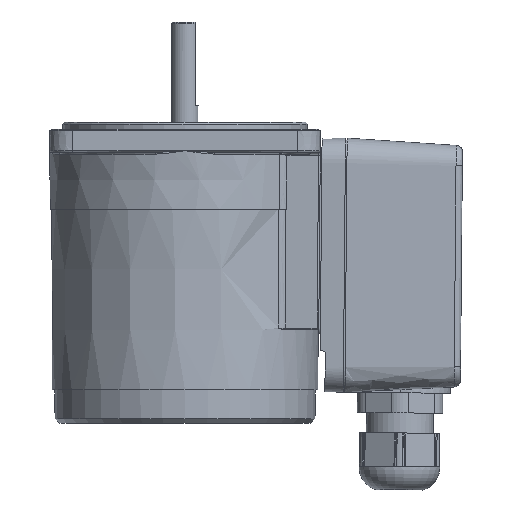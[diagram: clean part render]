
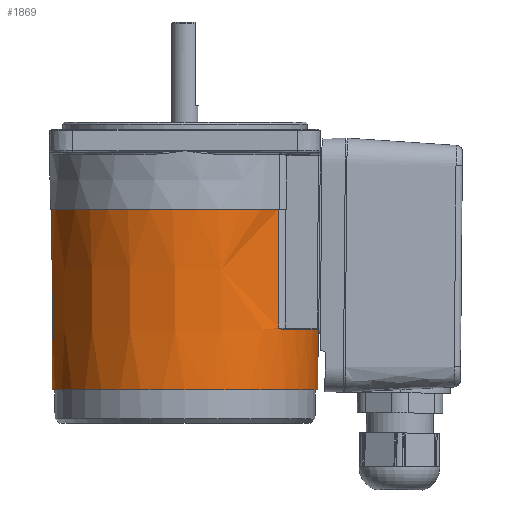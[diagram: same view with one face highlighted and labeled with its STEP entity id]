
A CAD part, left-side view. The second image highlights one B-rep face of the part: STEP entity #1869.
In plain terms, the highlighted conical face has half-angle 0.318 degrees and reference radius 40.05 mm.
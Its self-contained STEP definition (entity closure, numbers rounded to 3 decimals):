
#133 = CARTESIAN_POINT ( 'NONE',  ( 28.384, -27.989, -57.168 ) ) ;
#188 = DIRECTION ( 'NONE',  ( -1., 0., 0. ) ) ;
#243 = AXIS2_PLACEMENT_3D ( 'NONE', #9680, #4016, #11594 ) ;
#251 = CARTESIAN_POINT ( 'NONE',  ( 28.549, -27.977, -37.5 ) ) ;
#308 = CARTESIAN_POINT ( 'NONE',  ( 0., 0., -59.5 ) ) ;
#342 = CARTESIAN_POINT ( 'NONE',  ( 0., 0., -77.5 ) ) ;
#454 = B_SPLINE_CURVE_WITH_KNOTS ( 'NONE', 3,
 ( #8465, #1908, #12221, #4660, #5721, #2679, #9389, #794 ),
 .UNSPECIFIED., .F., .F.,
 ( 4, 2, 2, 4 ),
 ( 0., 0.001, 0.001, 0.002 ),
 .UNSPECIFIED. ) ;
#691 = CIRCLE ( 'NONE', #3878, 40.05 ) ;
#738 = CARTESIAN_POINT ( 'NONE',  ( 3.591, -39.698, -59.458 ) ) ;
#766 = CARTESIAN_POINT ( 'NONE',  ( -39.75, 0., -77.5 ) ) ;
#791 = CARTESIAN_POINT ( 'NONE',  ( -28.369, -27.99, -59.003 ) ) ;
#794 = CARTESIAN_POINT ( 'NONE',  ( 27.122, -29.196, -59.5 ) ) ;
#855 = VERTEX_POINT ( 'NONE', #5679 ) ;
#1118 = DIRECTION ( 'NONE',  ( 0., 0., -1. ) ) ;
#1282 = ORIENTED_EDGE ( 'NONE', *, *, #5523, .T. ) ;
#1532 = CARTESIAN_POINT ( 'NONE',  ( 0., 0., -59.5 ) ) ;
#1544 = CARTESIAN_POINT ( 'NONE',  ( -28.415, -27.987, -53.5 ) ) ;
#1733 = CARTESIAN_POINT ( 'NONE',  ( -28.616, -27.972, -29.501 ) ) ;
#1752 = EDGE_LOOP ( 'NONE', ( #4746, #6105, #7205, #11717, #2665, #1282, #10028, #5434 ) ) ;
#1869 = ADVANCED_FACE ( 'NONE', ( #6821, #10604 ), #5414, .T. ) ;
#1908 = CARTESIAN_POINT ( 'NONE',  ( 28.173, -28.188, -59.121 ) ) ;
#2053 = CARTESIAN_POINT ( 'NONE',  ( 0., 0., -23.5 ) ) ;
#2092 = VERTEX_POINT ( 'NONE', #2420 ) ;
#2120 = CARTESIAN_POINT ( 'NONE',  ( 28.415, -27.987, -53.499 ) ) ;
#2292 = DIRECTION ( 'NONE',  ( 0., 0., -1. ) ) ;
#2342 = EDGE_CURVE ( 'NONE', #10077, #2092, #7204, .T. ) ;
#2420 = CARTESIAN_POINT ( 'NONE',  ( 5.38, -39.485, -59.5 ) ) ;
#2459 = CARTESIAN_POINT ( 'NONE',  ( -27.663, -28.685, -59.381 ) ) ;
#2497 = CARTESIAN_POINT ( 'NONE',  ( -28.482, -27.982, -45.5 ) ) ;
#2534 = B_SPLINE_CURVE_WITH_KNOTS ( 'NONE', 3,
 ( #12218, #6417, #738, #11362, #5479, #4539, #10200, #12161, #8342, #5586 ),
 .UNSPECIFIED., .F., .F.,
 ( 4, 2, 2, 2, 4 ),
 ( 0., 0.003, 0.005, 0.008, 0.011 ),
 .UNSPECIFIED. ) ;
#2665 = ORIENTED_EDGE ( 'NONE', *, *, #6354, .T. ) ;
#2679 = CARTESIAN_POINT ( 'NONE',  ( 27.343, -28.99, -59.481 ) ) ;
#2756 = VERTEX_POINT ( 'NONE', #7194 ) ;
#2869 = CARTESIAN_POINT ( 'NONE',  ( 28.4, -27.988, -55.334 ) ) ;
#2967 = EDGE_CURVE ( 'NONE', #7369, #7369, #5742, .T. ) ;
#3274 = CARTESIAN_POINT ( 'NONE',  ( 28.667, -27.968, -23.5 ) ) ;
#3673 = CARTESIAN_POINT ( 'NONE',  ( -28.65, -27.969, -25.5 ) ) ;
#3878 = AXIS2_PLACEMENT_3D ( 'NONE', #2053, #1118, #188 ) ;
#3922 = EDGE_CURVE ( 'NONE', #4545, #855, #9979, .T. ) ;
#4016 = DIRECTION ( 'NONE',  ( 0., 0., 1. ) ) ;
#4146 = CARTESIAN_POINT ( 'NONE',  ( -28.173, -28.187, -59.12 ) ) ;
#4291 = ORIENTED_EDGE ( 'NONE', *, *, #2967, .F. ) ;
#4532 = DIRECTION ( 'NONE',  ( -1., 0., 0. ) ) ;
#4539 = CARTESIAN_POINT ( 'NONE',  ( -0.905, -39.851, -59.341 ) ) ;
#4545 = VERTEX_POINT ( 'NONE', #3274 ) ;
#4602 = CARTESIAN_POINT ( 'NONE',  ( -28.633, -27.971, -27.501 ) ) ;
#4660 = CARTESIAN_POINT ( 'NONE',  ( 27.663, -28.685, -59.381 ) ) ;
#4746 = ORIENTED_EDGE ( 'NONE', *, *, #11134, .T. ) ;
#4793 = CARTESIAN_POINT ( 'NONE',  ( 28.667, -27.968, -23.5 ) ) ;
#4856 = CARTESIAN_POINT ( 'NONE',  ( 28.65, -27.969, -25.5 ) ) ;
#5033 = DIRECTION ( 'NONE',  ( -1., 0., 0. ) ) ;
#5356 = CARTESIAN_POINT ( 'NONE',  ( -28.667, -27.968, -23.5 ) ) ;
#5414 = CONICAL_SURFACE ( 'NONE', #243, 40.05, 0.006 ) ;
#5434 = ORIENTED_EDGE ( 'NONE', *, *, #10978, .T. ) ;
#5479 = CARTESIAN_POINT ( 'NONE',  ( 0.896, -39.851, -59.341 ) ) ;
#5523 = EDGE_CURVE ( 'NONE', #2756, #7221, #11497, .T. ) ;
#5565 = B_SPLINE_CURVE_WITH_KNOTS ( 'NONE', 3,
 ( #7410, #10078, #6487, #1544, #2497, #8348, #1733, #4602, #3673, #5356 ),
 .UNSPECIFIED., .F., .F.,
 ( 4, 3, 3, 4 ),
 ( 0., 0.006, 0.03, 0.036 ),
 .UNSPECIFIED. ) ;
#5586 = CARTESIAN_POINT ( 'NONE',  ( -5.38, -39.485, -59.5 ) ) ;
#5679 = CARTESIAN_POINT ( 'NONE',  ( 28.369, -27.99, -59.003 ) ) ;
#5721 = CARTESIAN_POINT ( 'NONE',  ( 27.558, -28.786, -59.421 ) ) ;
#5742 = CIRCLE ( 'NONE', #9911, 39.75 ) ;
#5916 = CARTESIAN_POINT ( 'NONE',  ( 28.369, -27.99, -59.003 ) ) ;
#5947 = DIRECTION ( 'NONE',  ( 0., 0., -1. ) ) ;
#6023 = AXIS2_PLACEMENT_3D ( 'NONE', #1532, #10130, #4532 ) ;
#6077 = CARTESIAN_POINT ( 'NONE',  ( -27.558, -28.786, -59.421 ) ) ;
#6105 = ORIENTED_EDGE ( 'NONE', *, *, #3922, .T. ) ;
#6155 = AXIS2_PLACEMENT_3D ( 'NONE', #308, #2292, #5033 ) ;
#6354 = EDGE_CURVE ( 'NONE', #2092, #2756, #2534, .T. ) ;
#6397 = VERTEX_POINT ( 'NONE', #791 ) ;
#6417 = CARTESIAN_POINT ( 'NONE',  ( 4.487, -39.607, -59.5 ) ) ;
#6487 = CARTESIAN_POINT ( 'NONE',  ( -28.4, -27.988, -55.334 ) ) ;
#6725 = EDGE_LOOP ( 'NONE', ( #4291 ) ) ;
#6821 = FACE_BOUND ( 'NONE', #6725, .T. ) ;
#7194 = CARTESIAN_POINT ( 'NONE',  ( -5.38, -39.485, -59.5 ) ) ;
#7204 = CIRCLE ( 'NONE', #6023, 39.85 ) ;
#7205 = ORIENTED_EDGE ( 'NONE', *, *, #7435, .T. ) ;
#7221 = VERTEX_POINT ( 'NONE', #8691 ) ;
#7369 = VERTEX_POINT ( 'NONE', #766 ) ;
#7410 = CARTESIAN_POINT ( 'NONE',  ( -28.369, -27.99, -59.003 ) ) ;
#7435 = EDGE_CURVE ( 'NONE', #855, #10077, #454, .T. ) ;
#7935 = DIRECTION ( 'NONE',  ( -1., 0., 0. ) ) ;
#8000 = CARTESIAN_POINT ( 'NONE',  ( -27.974, -28.384, -59.239 ) ) ;
#8342 = CARTESIAN_POINT ( 'NONE',  ( -4.488, -39.607, -59.5 ) ) ;
#8348 = CARTESIAN_POINT ( 'NONE',  ( -28.549, -27.977, -37.501 ) ) ;
#8465 = CARTESIAN_POINT ( 'NONE',  ( 28.369, -27.99, -59.003 ) ) ;
#8691 = CARTESIAN_POINT ( 'NONE',  ( -27.122, -29.196, -59.5 ) ) ;
#8715 = CARTESIAN_POINT ( 'NONE',  ( -27.343, -28.99, -59.481 ) ) ;
#9389 = CARTESIAN_POINT ( 'NONE',  ( 27.234, -29.092, -59.5 ) ) ;
#9577 = EDGE_CURVE ( 'NONE', #7221, #6397, #11388, .T. ) ;
#9680 = CARTESIAN_POINT ( 'NONE',  ( 0., 0., -23.5 ) ) ;
#9706 = CARTESIAN_POINT ( 'NONE',  ( 28.633, -27.971, -27.5 ) ) ;
#9911 = AXIS2_PLACEMENT_3D ( 'NONE', #342, #5947, #7935 ) ;
#9979 = B_SPLINE_CURVE_WITH_KNOTS ( 'NONE', 3,
 ( #4793, #4856, #9706, #10447, #251, #10635, #2120, #2869, #133, #5916 ),
 .UNSPECIFIED., .F., .F.,
 ( 4, 3, 3, 4 ),
 ( 0., 0.006, 0.03, 0.036 ),
 .UNSPECIFIED. ) ;
#10028 = ORIENTED_EDGE ( 'NONE', *, *, #9577, .T. ) ;
#10077 = VERTEX_POINT ( 'NONE', #10578 ) ;
#10078 = CARTESIAN_POINT ( 'NONE',  ( -28.384, -27.989, -57.169 ) ) ;
#10130 = DIRECTION ( 'NONE',  ( 0., 0., -1. ) ) ;
#10200 = CARTESIAN_POINT ( 'NONE',  ( -1.802, -39.82, -59.378 ) ) ;
#10447 = CARTESIAN_POINT ( 'NONE',  ( 28.616, -27.972, -29.5 ) ) ;
#10547 = CARTESIAN_POINT ( 'NONE',  ( -28.667, -27.968, -23.5 ) ) ;
#10558 = CARTESIAN_POINT ( 'NONE',  ( -27.234, -29.092, -59.5 ) ) ;
#10577 = VERTEX_POINT ( 'NONE', #10547 ) ;
#10578 = CARTESIAN_POINT ( 'NONE',  ( 27.122, -29.196, -59.5 ) ) ;
#10604 = FACE_OUTER_BOUND ( 'NONE', #1752, .T. ) ;
#10635 = CARTESIAN_POINT ( 'NONE',  ( 28.482, -27.982, -45.499 ) ) ;
#10964 = CARTESIAN_POINT ( 'NONE',  ( -27.122, -29.196, -59.5 ) ) ;
#10978 = EDGE_CURVE ( 'NONE', #6397, #10577, #5565, .T. ) ;
#11134 = EDGE_CURVE ( 'NONE', #10577, #4545, #691, .T. ) ;
#11362 = CARTESIAN_POINT ( 'NONE',  ( 1.797, -39.82, -59.378 ) ) ;
#11388 = B_SPLINE_CURVE_WITH_KNOTS ( 'NONE', 3,
 ( #10964, #10558, #8715, #6077, #2459, #8000, #4146, #11714 ),
 .UNSPECIFIED., .F., .F.,
 ( 4, 2, 2, 4 ),
 ( 0., 0., 0.001, 0.002 ),
 .UNSPECIFIED. ) ;
#11497 = CIRCLE ( 'NONE', #6155, 39.85 ) ;
#11594 = DIRECTION ( 'NONE',  ( 1., 0., 0. ) ) ;
#11714 = CARTESIAN_POINT ( 'NONE',  ( -28.369, -27.99, -59.003 ) ) ;
#11717 = ORIENTED_EDGE ( 'NONE', *, *, #2342, .T. ) ;
#12161 = CARTESIAN_POINT ( 'NONE',  ( -3.594, -39.698, -59.458 ) ) ;
#12218 = CARTESIAN_POINT ( 'NONE',  ( 5.38, -39.485, -59.5 ) ) ;
#12221 = CARTESIAN_POINT ( 'NONE',  ( 27.974, -28.384, -59.239 ) ) ;
